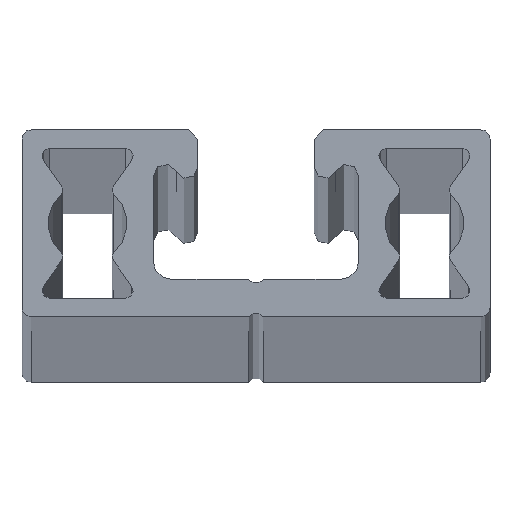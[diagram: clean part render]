
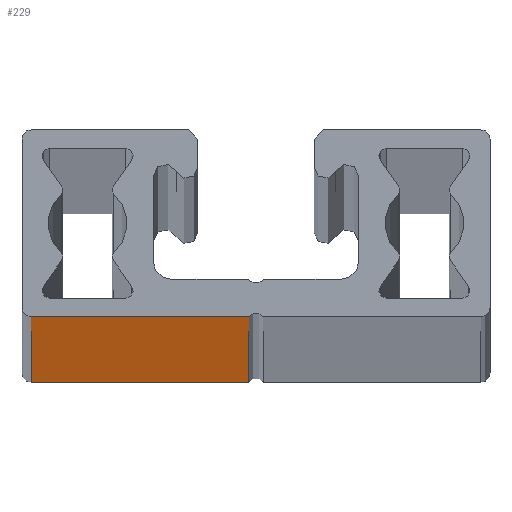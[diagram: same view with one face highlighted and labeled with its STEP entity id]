
A CAD part, top view. The second image highlights one B-rep face of the part: STEP entity #229.
In plain terms, the highlighted planar face has unit normal (0, -1, 0).
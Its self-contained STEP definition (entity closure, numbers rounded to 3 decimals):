
#229=ADVANCED_FACE('',(#427),#428,.F.);
#427=FACE_OUTER_BOUND('',#626,.T.);
#428=PLANE('',#627);
#626=EDGE_LOOP('',(#1023,#1024,#1025,#1026));
#627=AXIS2_PLACEMENT_3D('',#1027,#1028,#1029);
#1023=ORIENTED_EDGE('',*,*,#1456,.T.);
#1024=ORIENTED_EDGE('',*,*,#1457,.T.);
#1025=ORIENTED_EDGE('',*,*,#1458,.F.);
#1026=ORIENTED_EDGE('',*,*,#1356,.T.);
#1027=CARTESIAN_POINT('',(-12.0,0.0,500.0));
#1028=DIRECTION('',(-0.0,1.0,0.0));
#1029=DIRECTION('',(1.0,0.0,0.0));
#1356=EDGE_CURVE('',#1647,#1645,#1648,.T.);
#1456=EDGE_CURVE('',#1645,#1797,#1798,.T.);
#1457=EDGE_CURVE('',#1797,#1799,#1800,.T.);
#1458=EDGE_CURVE('',#1647,#1799,#1801,.T.);
#1645=VERTEX_POINT('',#2027);
#1647=VERTEX_POINT('',#2029);
#1648=LINE('',#2030,#2031);
#1797=VERTEX_POINT('',#2227);
#1798=LINE('',#2228,#2229);
#1799=VERTEX_POINT('',#2230);
#1800=LINE('',#2231,#2232);
#1801=LINE('',#2233,#2234);
#2027=CARTESIAN_POINT('',(-12.0,0.0,-500.0));
#2029=CARTESIAN_POINT('',(-12.0,0.0,1500.0));
#2030=CARTESIAN_POINT('',(-12.0,0.0,500.0));
#2031=VECTOR('',#2447,1.0);
#2227=CARTESIAN_POINT('',(-0.4,0.0,-500.0));
#2228=CARTESIAN_POINT('',(-12.0,0.0,-500.0));
#2229=VECTOR('',#2576,1.0);
#2230=CARTESIAN_POINT('',(-0.4,0.0,1500.0));
#2231=CARTESIAN_POINT('',(-0.4,0.0,-500.0));
#2232=VECTOR('',#2577,1.0);
#2233=CARTESIAN_POINT('',(-12.0,0.0,1500.0));
#2234=VECTOR('',#2578,1.0);
#2447=DIRECTION('',(0.0,0.0,-1.0));
#2576=DIRECTION('',(1.0,0.0,0.0));
#2577=DIRECTION('',(0.0,0.0,1.0));
#2578=DIRECTION('',(1.0,0.0,0.0));
